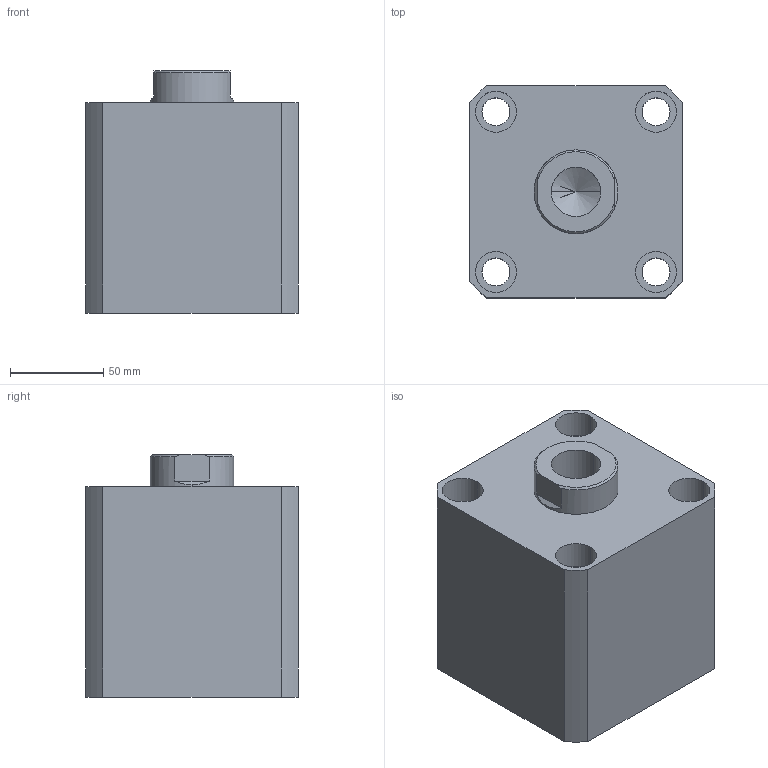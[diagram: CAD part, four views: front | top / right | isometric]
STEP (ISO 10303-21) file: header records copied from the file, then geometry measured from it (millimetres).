
FILE_DESCRIPTION (( 'STEP AP203' ), '1' );
FILE_NAME ('HTB-SDMB80-35N.STEP', '2019-10-09T06:02:33', ( '微软用户' ), ( '微软中国' ), 'SwSTEP 2.0', 'SolidWorks 2012', '' );
FILE_SCHEMA (( 'CONFIG_CONTROL_DESIGN' ));
Length unit declared in the file: millimetre
Products named in the file (3): HTB-SDMB80-35掛极; HTB-SDMB80-35N活塞杆; HTB-SDMB80-35N
Assembly tree (2 placements, depth 2):
  HTB-SDMB80-35N
    HTB-SDMB80-35掛极
    HTB-SDMB80-35N活塞杆
Bounding box: 114 x 114 x 130 mm (x, y, z)
Volume: 1229191.2 mm3; surface area: 158663.3 mm2
Topology: 2 solids, 2 shells, 137 faces, 331 edges, 217 vertices
Faces by surface type: plane 65, cylinder 46, bspline 16, torus 6, cone 4
Entity records: 5070 total; most frequent: CARTESIAN_POINT 1576, ORIENTED_EDGE 658, DIRECTION 647, EDGE_CURVE 329, AXIS2_PLACEMENT_3D 232, VERTEX_POINT 217, LINE 183, VECTOR 183
